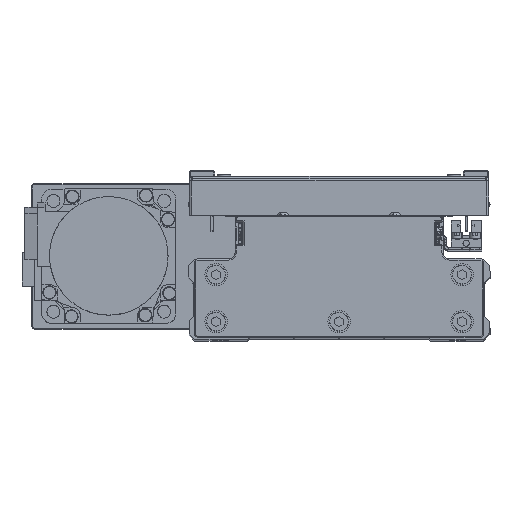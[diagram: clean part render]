
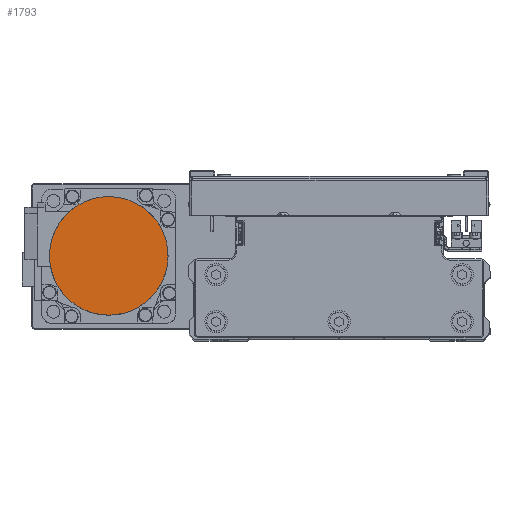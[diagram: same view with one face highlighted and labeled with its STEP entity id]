
A CAD part, top view. The second image highlights one B-rep face of the part: STEP entity #1793.
In plain terms, the highlighted planar face has unit normal (0, 0, 1) as drawn and (0, 0, -1) by its records, which use the part's own axes.
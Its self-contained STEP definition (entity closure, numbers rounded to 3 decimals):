
#85 = CARTESIAN_POINT ( 'NONE',  ( -23.819, 11.744, -109.7 ) ) ;
#1725 = CARTESIAN_POINT ( 'NONE',  ( -13.28, -22.998, -109.7 ) ) ;
#1793 = ADVANCED_FACE ( 'NONE', ( #7594 ), #21008, .F. ) ;
#1920 = CARTESIAN_POINT ( 'NONE',  ( 17.512, -19.965, -109.7 ) ) ;
#2609 = AXIS2_PLACEMENT_3D ( 'NONE', #34424, #4320, #17731 ) ;
#3150 = CARTESIAN_POINT ( 'NONE',  ( 11.744, 23.819, -109.7 ) ) ;
#3351 = CARTESIAN_POINT ( 'NONE',  ( -19.965, 17.512, -109.7 ) ) ;
#4320 = DIRECTION ( 'NONE',  ( 0., 0., 1. ) ) ;
#5019 = CARTESIAN_POINT ( 'NONE',  ( -19.965, -17.512, -109.7 ) ) ;
#5225 = CARTESIAN_POINT ( 'NONE',  ( 11.744, -23.819, -109.7 ) ) ;
#5638 = CARTESIAN_POINT ( 'NONE',  ( 26.5, 0., -109.7 ) ) ;
#6433 = CARTESIAN_POINT ( 'NONE',  ( 17.512, 19.965, -109.7 ) ) ;
#6652 = CARTESIAN_POINT ( 'NONE',  ( -13.28, 22.998, -109.7 ) ) ;
#7594 = FACE_OUTER_BOUND ( 'NONE', #8883, .T. ) ;
#8020 = B_SPLINE_CURVE_WITH_KNOTS ( 'NONE', 3,
 ( #28317, #41687, #11615, #25008, #38383, #8289, #21703, #35121, #5019, #18417, #31825, #1725, #15118, #28525, #41884, #11817, #25219, #38597, #8513, #21917, #35322, #5225, #18629, #32032, #1920, #15315, #28735, #42104, #12045, #25443, #38803, #8723, #22131, #35531 ),
 .UNSPECIFIED., .F., .F.,
 ( 4, 2, 2, 2, 2, 2, 2, 2, 2, 2, 2, 2, 2, 2, 2, 2, 4 ),
 ( 0., 0.063, 0.125, 0.188, 0.25, 0.312, 0.375, 0.437, 0.5, 0.562, 0.625, 0.687, 0.75, 0.813, 0.875, 0.938, 1. ),
 .UNSPECIFIED. ) ;
#8289 = CARTESIAN_POINT ( 'NONE',  ( -23.819, -11.744, -109.7 ) ) ;
#8513 = CARTESIAN_POINT ( 'NONE',  ( 3.469, -26.329, -109.7 ) ) ;
#8723 = CARTESIAN_POINT ( 'NONE',  ( 26.329, -3.469, -109.7 ) ) ;
#8883 = EDGE_LOOP ( 'NONE', ( #19491, #13013 ) ) ;
#9718 = CARTESIAN_POINT ( 'NONE',  ( 22.998, 13.28, -109.7 ) ) ;
#9954 = CARTESIAN_POINT ( 'NONE',  ( -6.871, 25.652, -109.7 ) ) ;
#10172 = CARTESIAN_POINT ( 'NONE',  ( -26.5, 1.734, -109.7 ) ) ;
#11615 = CARTESIAN_POINT ( 'NONE',  ( -26.329, -3.469, -109.7 ) ) ;
#11817 = CARTESIAN_POINT ( 'NONE',  ( -3.469, -26.329, -109.7 ) ) ;
#12045 = CARTESIAN_POINT ( 'NONE',  ( 23.819, -11.744, -109.7 ) ) ;
#13013 = ORIENTED_EDGE ( 'NONE', *, *, #24919, .F. ) ;
#13033 = CARTESIAN_POINT ( 'NONE',  ( 25.652, 6.871, -109.7 ) ) ;
#13246 = CARTESIAN_POINT ( 'NONE',  ( 1.734, 26.5, -109.7 ) ) ;
#13475 = CARTESIAN_POINT ( 'NONE',  ( -25.147, 8.539, -109.7 ) ) ;
#13744 = CARTESIAN_POINT ( 'NONE',  ( -26.5, 0., -109.7 ) ) ;
#15118 = CARTESIAN_POINT ( 'NONE',  ( -11.744, -23.819, -109.7 ) ) ;
#15315 = CARTESIAN_POINT ( 'NONE',  ( 19.965, -17.512, -109.7 ) ) ;
#16333 = CARTESIAN_POINT ( 'NONE',  ( 26.5, 0., -109.7 ) ) ;
#16549 = CARTESIAN_POINT ( 'NONE',  ( 8.539, 25.147, -109.7 ) ) ;
#16755 = CARTESIAN_POINT ( 'NONE',  ( -21.07, 16.165, -109.7 ) ) ;
#17731 = DIRECTION ( 'NONE',  ( 1., 0., 0. ) ) ;
#18279 = EDGE_CURVE ( 'NONE', #38405, #19121, #40616, .T. ) ;
#18417 = CARTESIAN_POINT ( 'NONE',  ( -17.512, -19.965, -109.7 ) ) ;
#18629 = CARTESIAN_POINT ( 'NONE',  ( 13.28, -22.998, -109.7 ) ) ;
#19121 = VERTEX_POINT ( 'NONE', #13744 ) ;
#19491 = ORIENTED_EDGE ( 'NONE', *, *, #18279, .F. ) ;
#19852 = CARTESIAN_POINT ( 'NONE',  ( 16.165, 21.07, -109.7 ) ) ;
#20067 = CARTESIAN_POINT ( 'NONE',  ( -16.165, 21.07, -109.7 ) ) ;
#21008 = PLANE ( 'NONE',  #2609 ) ;
#21703 = CARTESIAN_POINT ( 'NONE',  ( -22.998, -13.28, -109.7 ) ) ;
#21917 = CARTESIAN_POINT ( 'NONE',  ( 6.871, -25.652, -109.7 ) ) ;
#22131 = CARTESIAN_POINT ( 'NONE',  ( 26.5, -1.734, -109.7 ) ) ;
#23133 = CARTESIAN_POINT ( 'NONE',  ( 21.07, 16.165, -109.7 ) ) ;
#23355 = CARTESIAN_POINT ( 'NONE',  ( -8.539, 25.147, -109.7 ) ) ;
#23578 = CARTESIAN_POINT ( 'NONE',  ( -26.5, 0., -109.7 ) ) ;
#24919 = EDGE_CURVE ( 'NONE', #19121, #38405, #8020, .T. ) ;
#25008 = CARTESIAN_POINT ( 'NONE',  ( -25.652, -6.871, -109.7 ) ) ;
#25219 = CARTESIAN_POINT ( 'NONE',  ( -1.734, -26.5, -109.7 ) ) ;
#25443 = CARTESIAN_POINT ( 'NONE',  ( 25.147, -8.539, -109.7 ) ) ;
#26443 = CARTESIAN_POINT ( 'NONE',  ( 25.147, 8.539, -109.7 ) ) ;
#26661 = CARTESIAN_POINT ( 'NONE',  ( -1.734, 26.5, -109.7 ) ) ;
#26892 = CARTESIAN_POINT ( 'NONE',  ( -25.652, 6.871, -109.7 ) ) ;
#28317 = CARTESIAN_POINT ( 'NONE',  ( -26.5, 0., -109.7 ) ) ;
#28525 = CARTESIAN_POINT ( 'NONE',  ( -8.539, -25.147, -109.7 ) ) ;
#28735 = CARTESIAN_POINT ( 'NONE',  ( 21.07, -16.165, -109.7 ) ) ;
#29753 = CARTESIAN_POINT ( 'NONE',  ( 26.5, 1.734, -109.7 ) ) ;
#29960 = CARTESIAN_POINT ( 'NONE',  ( 6.871, 25.652, -109.7 ) ) ;
#30181 = CARTESIAN_POINT ( 'NONE',  ( -22.998, 13.28, -109.7 ) ) ;
#31825 = CARTESIAN_POINT ( 'NONE',  ( -16.165, -21.07, -109.7 ) ) ;
#32032 = CARTESIAN_POINT ( 'NONE',  ( 16.165, -21.07, -109.7 ) ) ;
#33250 = CARTESIAN_POINT ( 'NONE',  ( 13.28, 22.998, -109.7 ) ) ;
#33460 = CARTESIAN_POINT ( 'NONE',  ( -17.512, 19.965, -109.7 ) ) ;
#34424 = CARTESIAN_POINT ( 'NONE',  ( 0., 0., -109.7 ) ) ;
#35121 = CARTESIAN_POINT ( 'NONE',  ( -21.07, -16.165, -109.7 ) ) ;
#35322 = CARTESIAN_POINT ( 'NONE',  ( 8.539, -25.147, -109.7 ) ) ;
#35531 = CARTESIAN_POINT ( 'NONE',  ( 26.5, 0., -109.7 ) ) ;
#36537 = CARTESIAN_POINT ( 'NONE',  ( 19.965, 17.512, -109.7 ) ) ;
#36748 = CARTESIAN_POINT ( 'NONE',  ( -11.744, 23.819, -109.7 ) ) ;
#38383 = CARTESIAN_POINT ( 'NONE',  ( -25.147, -8.539, -109.7 ) ) ;
#38405 = VERTEX_POINT ( 'NONE', #5638 ) ;
#38597 = CARTESIAN_POINT ( 'NONE',  ( 1.734, -26.5, -109.7 ) ) ;
#38803 = CARTESIAN_POINT ( 'NONE',  ( 25.652, -6.871, -109.7 ) ) ;
#39800 = CARTESIAN_POINT ( 'NONE',  ( 23.819, 11.744, -109.7 ) ) ;
#40029 = CARTESIAN_POINT ( 'NONE',  ( -3.469, 26.329, -109.7 ) ) ;
#40251 = CARTESIAN_POINT ( 'NONE',  ( -26.329, 3.469, -109.7 ) ) ;
#40616 = B_SPLINE_CURVE_WITH_KNOTS ( 'NONE', 3,
 ( #16333, #29753, #43105, #13033, #26443, #39800, #9718, #23133, #36537, #6433, #19852, #33250, #3150, #16549, #29960, #43307, #13246, #26661, #40029, #9954, #23355, #36748, #6652, #20067, #33460, #3351, #16755, #30181, #85, #13475, #26892, #40251, #10172, #23578 ),
 .UNSPECIFIED., .F., .F.,
 ( 4, 2, 2, 2, 2, 2, 2, 2, 2, 2, 2, 2, 2, 2, 2, 2, 4 ),
 ( 0., 0.062, 0.125, 0.187, 0.25, 0.312, 0.375, 0.437, 0.5, 0.562, 0.625, 0.687, 0.75, 0.813, 0.875, 0.938, 1. ),
 .UNSPECIFIED. ) ;
#41687 = CARTESIAN_POINT ( 'NONE',  ( -26.5, -1.734, -109.7 ) ) ;
#41884 = CARTESIAN_POINT ( 'NONE',  ( -6.871, -25.652, -109.7 ) ) ;
#42104 = CARTESIAN_POINT ( 'NONE',  ( 22.998, -13.28, -109.7 ) ) ;
#43105 = CARTESIAN_POINT ( 'NONE',  ( 26.329, 3.469, -109.7 ) ) ;
#43307 = CARTESIAN_POINT ( 'NONE',  ( 3.469, 26.329, -109.7 ) ) ;
